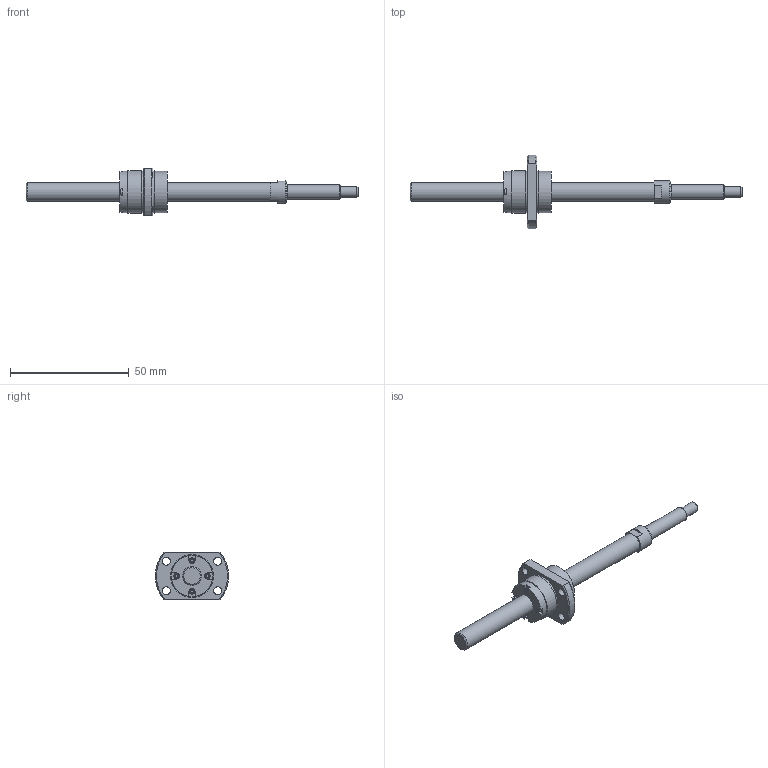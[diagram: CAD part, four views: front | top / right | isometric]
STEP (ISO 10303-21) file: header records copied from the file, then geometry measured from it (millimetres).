
FILE_DESCRIPTION(/* description */ ('STEP AP214'),/* implementation_level */ '2;1');
FILE_NAME(/* name */ 'SG0808-099R140C5A0X(39.5)',/* time_stamp */ '2026-07-21T16:52:31+02:00',/* author */ ('License CC BY-ND 4.0'),/* organization */ ('CADENAS'),/* preprocessor_version */ 'ST-DEVELOPER v20',/* originating_system */ 'PARTsolutions',/* authorisation */ ' ');
FILE_SCHEMA (('AUTOMOTIVE_DESIGN {1 0 10303 214 3 1 1}'));
Length unit declared in the file: millimetre
Products named in the file (3): SG0808-099R140C5A0X(39.5); SG0808-99R140C5A_shaft; SG0808 C5_nut
Assembly tree (2 placements, depth 2):
  SG0808-099R140C5A0X(39.5)
    SG0808-99R140C5A_shaft
    SG0808 C5_nut
Bounding box: 140 x 30.91 x 20 mm (x, y, z)
Volume: 11438.1 mm3; surface area: 6413.7 mm2
Topology: 2 solids, 2 shells, 100 faces, 231 edges, 150 vertices
Faces by surface type: plane 63, cylinder 24, cone 12, torus 1
Full cylindrical faces by diameter (mm): 2.25 x4, 3.4 x4, 4.5 x1, 6 x1, 8 x2, 9.5 x1, 17.45 x3, 18 x2
Entity records: 2781 total; most frequent: CARTESIAN_POINT 477, DIRECTION 472, ORIENTED_EDGE 404, EDGE_CURVE 202, AXIS2_PLACEMENT_3D 175, EDGE_LOOP 152, FACE_BOUND 152, VERTEX_POINT 148
